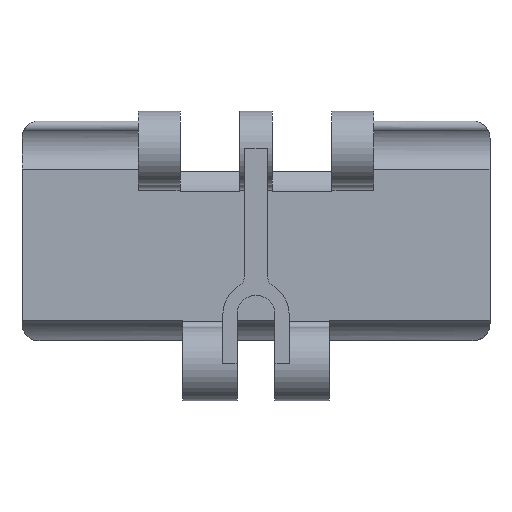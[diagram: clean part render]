
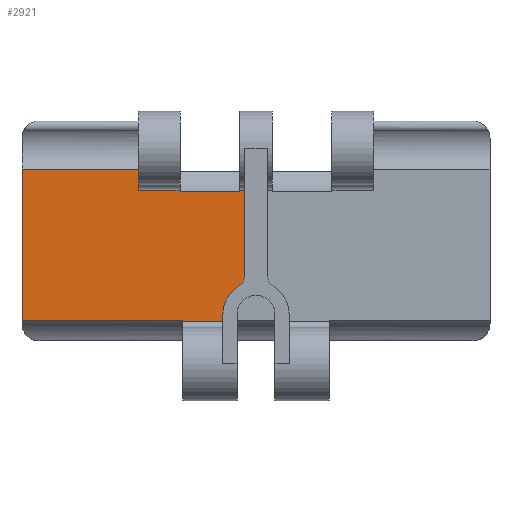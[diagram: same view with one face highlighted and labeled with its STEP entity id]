
A CAD part, front view. The second image highlights one B-rep face of the part: STEP entity #2921.
In plain terms, the highlighted planar face has unit normal (0, -1, 0).
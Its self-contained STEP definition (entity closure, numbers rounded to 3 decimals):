
#950 = VECTOR ( 'NONE', #1049, 1000. ) ;
#957 = LINE ( 'NONE', #1055, #1388 ) ;
#961 = CARTESIAN_POINT ( 'NONE',  ( -2., 3., 0. ) ) ;
#1049 = DIRECTION ( 'NONE',  ( 0., 0., 1. ) ) ;
#1054 = LINE ( 'NONE', #961, #950 ) ;
#1055 = CARTESIAN_POINT ( 'NONE',  ( -2.9, 3., -7.683 ) ) ;
#1388 = VECTOR ( 'NONE', #1390, 1000. ) ;
#1390 = DIRECTION ( 'NONE',  ( -1., 0., 0. ) ) ;
#1591 = CARTESIAN_POINT ( 'NONE',  ( -2.9, 3., -7.683 ) ) ;
#1827 = LINE ( 'NONE', #1972, #1971 ) ;
#1832 = DIRECTION ( 'NONE',  ( -1., 0., 0. ) ) ;
#1833 = VECTOR ( 'NONE', #1832, 1000. ) ;
#1834 = CARTESIAN_POINT ( 'NONE',  ( 41.3, 3., -3.747 ) ) ;
#1835 = LINE ( 'NONE', #1834, #1833 ) ;
#1910 = DIRECTION ( 'NONE',  ( 0., 0., 1. ) ) ;
#1911 = DIRECTION ( 'NONE',  ( 0., -1., 0. ) ) ;
#1912 = CARTESIAN_POINT ( 'NONE',  ( -4., 3., -22.596 ) ) ;
#1915 = DIRECTION ( 'NONE',  ( 0., 0., -1. ) ) ;
#1916 = VECTOR ( 'NONE', #1915, 1000. ) ;
#1917 = CARTESIAN_POINT ( 'NONE',  ( -41.3, 3., -3.747 ) ) ;
#1918 = LINE ( 'NONE', #1917, #1916 ) ;
#1919 = CARTESIAN_POINT ( 'NONE',  ( -5.85, 3., -29.35 ) ) ;
#1920 = DIRECTION ( 'NONE',  ( 0., 0., 1. ) ) ;
#1921 = DIRECTION ( 'NONE',  ( 0., 1., 0. ) ) ;
#1922 = AXIS2_PLACEMENT_3D ( 'NONE', #1928, #1921, #1920 ) ;
#1923 = CIRCLE ( 'NONE', #1922, 5.85 ) ;
#1924 = CIRCLE ( 'NONE', #1929, 2. ) ;
#1927 = CARTESIAN_POINT ( 'NONE',  ( -13.4, 3., -7.5 ) ) ;
#1928 = CARTESIAN_POINT ( 'NONE',  ( 0., 3., -29.35 ) ) ;
#1929 = AXIS2_PLACEMENT_3D ( 'NONE', #1912, #1911, #1910 ) ;
#1935 = CARTESIAN_POINT ( 'NONE',  ( -12.95, 3., -30.417 ) ) ;
#1942 = DIRECTION ( 'NONE',  ( 0., 0., 1. ) ) ;
#1943 = VECTOR ( 'NONE', #1942, 1000. ) ;
#1944 = CARTESIAN_POINT ( 'NONE',  ( -5.85, 3., -38.1 ) ) ;
#1945 = LINE ( 'NONE', #1968, #2013 ) ;
#1947 = CARTESIAN_POINT ( 'NONE',  ( -13.4, 3., -7.683 ) ) ;
#1949 = CARTESIAN_POINT ( 'NONE',  ( -20.8, 3., -3.747 ) ) ;
#1950 = DIRECTION ( 'NONE',  ( 0., 0., -1. ) ) ;
#1951 = VECTOR ( 'NONE', #1950, 1000. ) ;
#1952 = CARTESIAN_POINT ( 'NONE',  ( -13.4, 3., -7.5 ) ) ;
#1954 = CARTESIAN_POINT ( 'NONE',  ( -20.8, 3., -7.5 ) ) ;
#1955 = LINE ( 'NONE', #1944, #1943 ) ;
#1956 = DIRECTION ( 'NONE',  ( 0., 0., -1. ) ) ;
#1957 = VECTOR ( 'NONE', #1956, 1000. ) ;
#1958 = CARTESIAN_POINT ( 'NONE',  ( -12.95, 3., -30.417 ) ) ;
#1960 = CARTESIAN_POINT ( 'NONE',  ( -2., 3., -22.596 ) ) ;
#1962 = LINE ( 'NONE', #1958, #1957 ) ;
#1963 = LINE ( 'NONE', #1952, #1951 ) ;
#1964 = CARTESIAN_POINT ( 'NONE',  ( -41.3, 3., -3.747 ) ) ;
#1968 = CARTESIAN_POINT ( 'NONE',  ( -2.9, 3., -7.5 ) ) ;
#1970 = DIRECTION ( 'NONE',  ( 0., 0., -1. ) ) ;
#1971 = VECTOR ( 'NONE', #1970, 1000. ) ;
#1972 = CARTESIAN_POINT ( 'NONE',  ( -20.8, 3., -3.747 ) ) ;
#2012 = DIRECTION ( 'NONE',  ( 0., 0., -1. ) ) ;
#2013 = VECTOR ( 'NONE', #2012, 1000. ) ;
#2015 = DIRECTION ( 'NONE',  ( -1., 0., 0. ) ) ;
#2016 = VECTOR ( 'NONE', #2015, 1000. ) ;
#2017 = CARTESIAN_POINT ( 'NONE',  ( 20.8, 3., -7.5 ) ) ;
#2018 = LINE ( 'NONE', #2017, #2016 ) ;
#2061 = CARTESIAN_POINT ( 'NONE',  ( -12.95, 3., -30.6 ) ) ;
#2105 = DIRECTION ( 'NONE',  ( -1., 0., 0. ) ) ;
#2106 = VECTOR ( 'NONE', #2105, 1000. ) ;
#2107 = CARTESIAN_POINT ( 'NONE',  ( 12.95, 3., -30.6 ) ) ;
#2108 = CARTESIAN_POINT ( 'NONE',  ( -41.3, 3., -30.417 ) ) ;
#2111 = LINE ( 'NONE', #2107, #2106 ) ;
#2151 = DIRECTION ( 'NONE',  ( -1., 0., 0. ) ) ;
#2218 = CARTESIAN_POINT ( 'NONE',  ( -2.981, 3., -24.316 ) ) ;
#2225 = VECTOR ( 'NONE', #2151, 1000. ) ;
#2226 = CARTESIAN_POINT ( 'NONE',  ( 41.3, 3., -30.417 ) ) ;
#2251 = LINE ( 'NONE', #2226, #2225 ) ;
#2253 = CARTESIAN_POINT ( 'NONE',  ( -5.85, 3., -30.6 ) ) ;
#2315 = VECTOR ( 'NONE', #2414, 1000. ) ;
#2342 = CARTESIAN_POINT ( 'NONE',  ( -2.9, 3., -7.5 ) ) ;
#2382 = CARTESIAN_POINT ( 'NONE',  ( -2., 3., -7.5 ) ) ;
#2414 = DIRECTION ( 'NONE',  ( -1., 0., 0. ) ) ;
#2415 = CARTESIAN_POINT ( 'NONE',  ( 20.8, 3., -7.5 ) ) ;
#2416 = LINE ( 'NONE', #2415, #2315 ) ;
#2418 = DIRECTION ( 'NONE',  ( 0., 0., 1. ) ) ;
#2419 = DIRECTION ( 'NONE',  ( 0., 1., 0. ) ) ;
#2420 = CARTESIAN_POINT ( 'NONE',  ( 41.3, 3., -3.747 ) ) ;
#2428 = AXIS2_PLACEMENT_3D ( 'NONE', #2420, #2419, #2418 ) ;
#2480 = PLANE ( 'NONE',  #2428 ) ;
#2485 = FACE_OUTER_BOUND ( 'NONE', #2928, .T. ) ;
#2696 = VERTEX_POINT ( 'NONE', #1935 ) ;
#2697 = ORIENTED_EDGE ( 'NONE', *, *, #2741, .T. ) ;
#2698 = ORIENTED_EDGE ( 'NONE', *, *, #2757, .F. ) ;
#2699 = VERTEX_POINT ( 'NONE', #1927 ) ;
#2700 = EDGE_CURVE ( 'NONE', #2711, #2750, #1923, .T. ) ;
#2701 = ORIENTED_EDGE ( 'NONE', *, *, #2734, .T. ) ;
#2702 = EDGE_CURVE ( 'NONE', #2718, #2758, #1918, .T. ) ;
#2703 = EDGE_CURVE ( 'NONE', #2750, #2732, #1924, .T. ) ;
#2704 = ORIENTED_EDGE ( 'NONE', *, *, #2710, .T. ) ;
#2707 = ORIENTED_EDGE ( 'NONE', *, *, #2702, .T. ) ;
#2710 = EDGE_CURVE ( 'NONE', #2727, #2718, #1835, .T. ) ;
#2711 = VERTEX_POINT ( 'NONE', #1919 ) ;
#2713 = EDGE_CURVE ( 'NONE', #2727, #2725, #1827, .T. ) ;
#2717 = ORIENTED_EDGE ( 'NONE', *, *, #2721, .T. ) ;
#2718 = VERTEX_POINT ( 'NONE', #1964 ) ;
#2720 = ORIENTED_EDGE ( 'NONE', *, *, #2746, .F. ) ;
#2721 = EDGE_CURVE ( 'NONE', #2696, #2742, #1962, .T. ) ;
#2722 = ORIENTED_EDGE ( 'NONE', *, *, #2723, .F. ) ;
#2723 = EDGE_CURVE ( 'NONE', #2699, #2731, #1963, .T. ) ;
#2724 = ORIENTED_EDGE ( 'NONE', *, *, #2885, .T. ) ;
#2725 = VERTEX_POINT ( 'NONE', #1954 ) ;
#2726 = ORIENTED_EDGE ( 'NONE', *, *, #2735, .T. ) ;
#2727 = VERTEX_POINT ( 'NONE', #1949 ) ;
#2729 = ORIENTED_EDGE ( 'NONE', *, *, #2740, .T. ) ;
#2730 = EDGE_CURVE ( 'NONE', #2744, #2711, #1955, .T. ) ;
#2731 = VERTEX_POINT ( 'NONE', #1947 ) ;
#2732 = VERTEX_POINT ( 'NONE', #1960 ) ;
#2733 = ORIENTED_EDGE ( 'NONE', *, *, #2713, .F. ) ;
#2734 = EDGE_CURVE ( 'NONE', #2699, #2725, #2018, .T. ) ;
#2735 = EDGE_CURVE ( 'NONE', #2884, #2738, #1945, .T. ) ;
#2737 = ORIENTED_EDGE ( 'NONE', *, *, #2703, .T. ) ;
#2738 = VERTEX_POINT ( 'NONE', #1591 ) ;
#2739 = ORIENTED_EDGE ( 'NONE', *, *, #2700, .T. ) ;
#2740 = EDGE_CURVE ( 'NONE', #2738, #2731, #957, .T. ) ;
#2741 = EDGE_CURVE ( 'NONE', #2732, #2879, #1054, .T. ) ;
#2742 = VERTEX_POINT ( 'NONE', #2061 ) ;
#2743 = ORIENTED_EDGE ( 'NONE', *, *, #2730, .T. ) ;
#2744 = VERTEX_POINT ( 'NONE', #2253 ) ;
#2746 = EDGE_CURVE ( 'NONE', #2696, #2758, #2251, .T. ) ;
#2750 = VERTEX_POINT ( 'NONE', #2218 ) ;
#2757 = EDGE_CURVE ( 'NONE', #2744, #2742, #2111, .T. ) ;
#2758 = VERTEX_POINT ( 'NONE', #2108 ) ;
#2879 = VERTEX_POINT ( 'NONE', #2382 ) ;
#2884 = VERTEX_POINT ( 'NONE', #2342 ) ;
#2885 = EDGE_CURVE ( 'NONE', #2879, #2884, #2416, .T. ) ;
#2921 = ADVANCED_FACE ( 'NONE', ( #2485 ), #2480, .F. ) ;
#2928 = EDGE_LOOP ( 'NONE', ( #2743, #2739, #2737, #2697, #2724, #2726, #2729, #2722, #2701, #2733, #2704, #2707, #2720, #2717, #2698 ) ) ;
